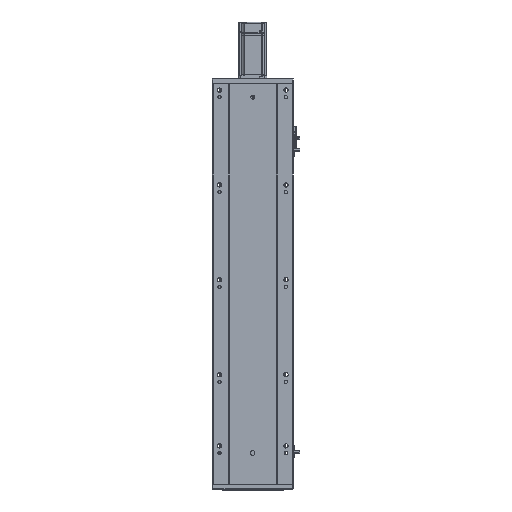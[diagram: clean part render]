
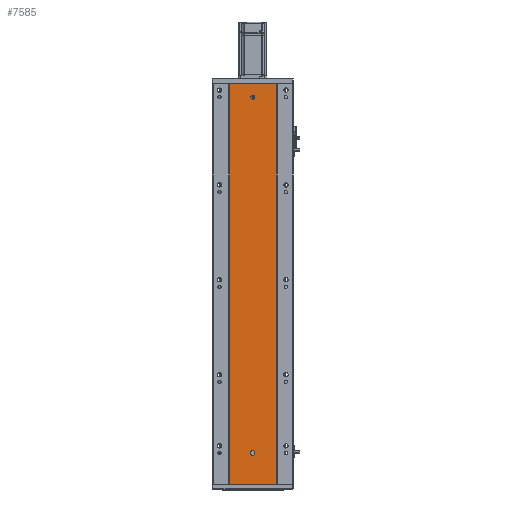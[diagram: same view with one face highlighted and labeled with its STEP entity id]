
A CAD part, front view. The second image highlights one B-rep face of the part: STEP entity #7585.
In plain terms, the highlighted planar face has unit normal (0, -1, 0).
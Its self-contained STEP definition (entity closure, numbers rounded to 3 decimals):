
#4165 = CARTESIAN_POINT ( 'NONE',  ( 86.97, 79.476, 281.333 ) ) ;
#5026 = DIRECTION ( 'NONE',  ( 0., 0., -1. ) ) ;
#5505 = EDGE_CURVE ( 'NONE', #48400, #41365, #10074, .T. ) ;
#5526 = CIRCLE ( 'NONE', #45975, 4. ) ;
#5891 = ORIENTED_EDGE ( 'NONE', *, *, #31256, .F. ) ;
#6024 = DIRECTION ( 'NONE',  ( 0., 1., 0. ) ) ;
#6508 = VERTEX_POINT ( 'NONE', #23456 ) ;
#6576 = EDGE_LOOP ( 'NONE', ( #66069, #29304, #56023, #19040 ) ) ;
#6612 = LINE ( 'NONE', #48756, #65468 ) ;
#7585 = ADVANCED_FACE ( 'NONE', ( #22039, #18779, #23552 ), #11239, .F. ) ;
#8303 = DIRECTION ( 'NONE',  ( 0., 0., -1. ) ) ;
#8969 = CARTESIAN_POINT ( 'NONE',  ( 136.47, 79.476, 64.5 ) ) ;
#9393 = EDGE_CURVE ( 'NONE', #16243, #6508, #18187, .T. ) ;
#9421 = VERTEX_POINT ( 'NONE', #38491 ) ;
#10074 = CIRCLE ( 'NONE', #11699, 4. ) ;
#11239 = PLANE ( 'NONE',  #36351 ) ;
#11699 = AXIS2_PLACEMENT_3D ( 'NONE', #49553, #33318, #18678 ) ;
#13543 = VERTEX_POINT ( 'NONE', #48498 ) ;
#15105 = CARTESIAN_POINT ( 'NONE',  ( 0., 79.476, 0. ) ) ;
#15124 = LINE ( 'NONE', #63795, #29571 ) ;
#15670 = CARTESIAN_POINT ( 'NONE',  ( 132.47, 79.476, 67.5 ) ) ;
#16115 = AXIS2_PLACEMENT_3D ( 'NONE', #8969, #34676, #65347 ) ;
#16243 = VERTEX_POINT ( 'NONE', #43791 ) ;
#17528 = CIRCLE ( 'NONE', #58997, 4. ) ;
#18187 = B_SPLINE_CURVE_WITH_KNOTS ( 'NONE', 3,
 ( #37386, #47308, #47989, #47532 ),
 .UNSPECIFIED., .F., .F.,
 ( 4, 4 ),
 ( 0., 1. ),
 .UNSPECIFIED. ) ;
#18678 = DIRECTION ( 'NONE',  ( 0., 0., -1. ) ) ;
#18779 = FACE_BOUND ( 'NONE', #33286, .T. ) ;
#19040 = ORIENTED_EDGE ( 'NONE', *, *, #65017, .T. ) ;
#19363 = DIRECTION ( 'NONE',  ( 0., -1., 0. ) ) ;
#21296 = CARTESIAN_POINT ( 'NONE',  ( 136.47, 79.476, 67.5 ) ) ;
#22039 = FACE_BOUND ( 'NONE', #33195, .T. ) ;
#22280 = CARTESIAN_POINT ( 'NONE',  ( 132.47, 79.476, 64.5 ) ) ;
#23456 = CARTESIAN_POINT ( 'NONE',  ( 185.97, 79.476, 0. ) ) ;
#23552 = FACE_OUTER_BOUND ( 'NONE', #6576, .T. ) ;
#24778 = VERTEX_POINT ( 'NONE', #29476 ) ;
#24781 = DIRECTION ( 'NONE',  ( 1., 0., 0. ) ) ;
#25077 = CARTESIAN_POINT ( 'NONE',  ( 136.47, 79.476, 812. ) ) ;
#26459 = DIRECTION ( 'NONE',  ( 0., 0., -1. ) ) ;
#26710 = AXIS2_PLACEMENT_3D ( 'NONE', #40531, #56067, #55849 ) ;
#27039 = CARTESIAN_POINT ( 'NONE',  ( 0., 79.476, 844. ) ) ;
#27590 = VERTEX_POINT ( 'NONE', #29458 ) ;
#27719 = DIRECTION ( 'NONE',  ( 1., 0., 0. ) ) ;
#27762 = DIRECTION ( 'NONE',  ( 0., 0., 1. ) ) ;
#28872 = EDGE_CURVE ( 'NONE', #27590, #44190, #40578, .T. ) ;
#29304 = ORIENTED_EDGE ( 'NONE', *, *, #9393, .F. ) ;
#29435 = LINE ( 'NONE', #15105, #35099 ) ;
#29458 = CARTESIAN_POINT ( 'NONE',  ( 132.47, 79.476, 67.5 ) ) ;
#29476 = CARTESIAN_POINT ( 'NONE',  ( 140.47, 79.476, 67.5 ) ) ;
#29571 = VECTOR ( 'NONE', #27719, 1000. ) ;
#31143 = CARTESIAN_POINT ( 'NONE',  ( 140.47, 79.476, 64.5 ) ) ;
#31256 = EDGE_CURVE ( 'NONE', #13543, #35517, #61236, .T. ) ;
#33195 = EDGE_LOOP ( 'NONE', ( #38446, #66079, #53689, #41804, #5891 ) ) ;
#33286 = EDGE_LOOP ( 'NONE', ( #36220, #54761 ) ) ;
#33318 = DIRECTION ( 'NONE',  ( 0., -1., 0. ) ) ;
#33788 = CARTESIAN_POINT ( 'NONE',  ( 86.97, 79.476, 844. ) ) ;
#34305 = EDGE_CURVE ( 'NONE', #63626, #6508, #29435, .T. ) ;
#34676 = DIRECTION ( 'NONE',  ( 0., -1., 0. ) ) ;
#35099 = VECTOR ( 'NONE', #24781, 1000. ) ;
#35517 = VERTEX_POINT ( 'NONE', #31143 ) ;
#36220 = ORIENTED_EDGE ( 'NONE', *, *, #5505, .F. ) ;
#36256 = CIRCLE ( 'NONE', #16115, 4. ) ;
#36351 = AXIS2_PLACEMENT_3D ( 'NONE', #27039, #6024, #57435 ) ;
#37386 = CARTESIAN_POINT ( 'NONE',  ( 185.97, 79.476, 844. ) ) ;
#38446 = ORIENTED_EDGE ( 'NONE', *, *, #60093, .F. ) ;
#38491 = CARTESIAN_POINT ( 'NONE',  ( 86.97, 79.476, 844. ) ) ;
#38740 = CARTESIAN_POINT ( 'NONE',  ( 136.47, 79.476, 820. ) ) ;
#39771 = EDGE_CURVE ( 'NONE', #24778, #27590, #17528, .T. ) ;
#40531 = CARTESIAN_POINT ( 'NONE',  ( 136.47, 79.476, 64.5 ) ) ;
#40578 = LINE ( 'NONE', #15670, #51902 ) ;
#41365 = VERTEX_POINT ( 'NONE', #38740 ) ;
#41804 = ORIENTED_EDGE ( 'NONE', *, *, #62679, .F. ) ;
#43791 = CARTESIAN_POINT ( 'NONE',  ( 185.97, 79.476, 844. ) ) ;
#44190 = VERTEX_POINT ( 'NONE', #22280 ) ;
#45975 = AXIS2_PLACEMENT_3D ( 'NONE', #49786, #19363, #8303 ) ;
#47308 = CARTESIAN_POINT ( 'NONE',  ( 185.97, 79.476, 562.667 ) ) ;
#47532 = CARTESIAN_POINT ( 'NONE',  ( 185.97, 79.476, 0. ) ) ;
#47989 = CARTESIAN_POINT ( 'NONE',  ( 185.97, 79.476, 281.333 ) ) ;
#48400 = VERTEX_POINT ( 'NONE', #25077 ) ;
#48498 = CARTESIAN_POINT ( 'NONE',  ( 136.47, 79.476, 60.5 ) ) ;
#48756 = CARTESIAN_POINT ( 'NONE',  ( 140.47, 79.476, 67.5 ) ) ;
#49355 = CARTESIAN_POINT ( 'NONE',  ( 86.97, 79.476, 562.667 ) ) ;
#49553 = CARTESIAN_POINT ( 'NONE',  ( 136.47, 79.476, 816. ) ) ;
#49786 = CARTESIAN_POINT ( 'NONE',  ( 136.47, 79.476, 816. ) ) ;
#51902 = VECTOR ( 'NONE', #5026, 1000. ) ;
#52420 = CARTESIAN_POINT ( 'NONE',  ( 86.97, 79.476, 0. ) ) ;
#53689 = ORIENTED_EDGE ( 'NONE', *, *, #39771, .F. ) ;
#54242 = EDGE_CURVE ( 'NONE', #9421, #16243, #15124, .T. ) ;
#54761 = ORIENTED_EDGE ( 'NONE', *, *, #60021, .F. ) ;
#55849 = DIRECTION ( 'NONE',  ( 0., 0., -1. ) ) ;
#56023 = ORIENTED_EDGE ( 'NONE', *, *, #54242, .F. ) ;
#56067 = DIRECTION ( 'NONE',  ( 0., -1., 0. ) ) ;
#57319 = DIRECTION ( 'NONE',  ( 0., -1., 0. ) ) ;
#57435 = DIRECTION ( 'NONE',  ( 0., 0., 1. ) ) ;
#58997 = AXIS2_PLACEMENT_3D ( 'NONE', #21296, #57319, #26459 ) ;
#60021 = EDGE_CURVE ( 'NONE', #41365, #48400, #5526, .T. ) ;
#60093 = EDGE_CURVE ( 'NONE', #44190, #13543, #36256, .T. ) ;
#60834 = CARTESIAN_POINT ( 'NONE',  ( 86.97, 79.476, 0. ) ) ;
#61236 = CIRCLE ( 'NONE', #26710, 4. ) ;
#62679 = EDGE_CURVE ( 'NONE', #35517, #24778, #6612, .T. ) ;
#62914 = B_SPLINE_CURVE_WITH_KNOTS ( 'NONE', 3,
 ( #33788, #49355, #4165, #60834 ),
 .UNSPECIFIED., .F., .F.,
 ( 4, 4 ),
 ( 0., 1. ),
 .UNSPECIFIED. ) ;
#63626 = VERTEX_POINT ( 'NONE', #52420 ) ;
#63795 = CARTESIAN_POINT ( 'NONE',  ( 0., 79.476, 844. ) ) ;
#65017 = EDGE_CURVE ( 'NONE', #9421, #63626, #62914, .T. ) ;
#65347 = DIRECTION ( 'NONE',  ( 0., 0., -1. ) ) ;
#65468 = VECTOR ( 'NONE', #27762, 1000. ) ;
#66069 = ORIENTED_EDGE ( 'NONE', *, *, #34305, .T. ) ;
#66079 = ORIENTED_EDGE ( 'NONE', *, *, #28872, .F. ) ;
